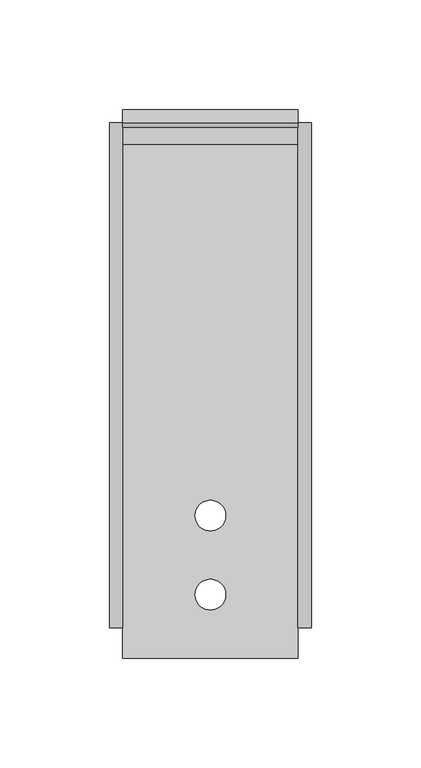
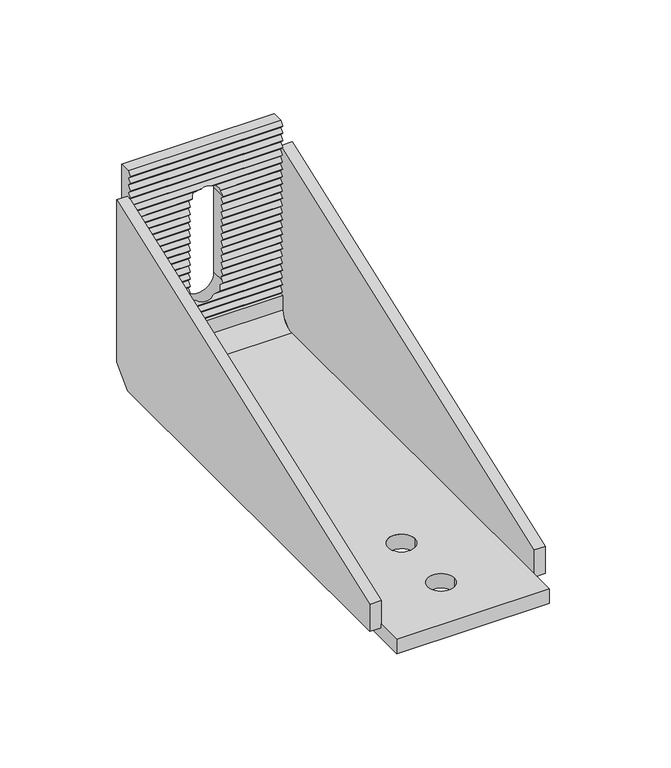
"""IFC4 building model written with IfcOpenShell, lengths in millimetres: fastener geometry, REC-PARA2501208RT : PARA2501208RT."""

from ifc_helpers import new_model, si_unit, frame, origin, place, context, project, spatial, polyline, circle_curve, ellipse_curve, source, transform, mapped, element, save
from ifc_brep_helpers import plane_surface, cylinder_surface, revolved_surface, advanced_brep


def fastener_4b0fadc4(model_context):
    return source(origin(), model_context, "Body", "AdvancedBrep", [
        advanced_brep(
        [(-40.0, -6.0, 120.0), (-40.0, 0.0, 120.0), (-40.0, 0.0, 16.0), (-40.0, -16.0, 0.0), (-40.0, -250.0, 0.0), (-40.0, -250.0, 8.0), (-40.0, -236.0, 8.0), (-40.0, -236.0, 6.0), (-40.0, -16.0, 6.0), (-40.0, -13.6457513, 8.3542487), (-40.0, -8.3542487, 13.6457513), (-40.0, -6.0, 16.0), (-40.0, -6.0, 24.0), (-40.0, -6.0, 28.0), (-40.0, -6.0, 32.0), (-40.0, -6.0, 36.0), (-40.0, -6.0, 40.0), (-40.0, -6.0, 44.0), (-40.0, -6.0, 48.0), (-40.0, -6.0, 52.0), (-40.0, -6.0, 56.0), (-40.0, -6.0, 60.0), (-40.0, -6.0, 64.0), (-40.0, -6.0, 68.0), (-40.0, -6.0, 72.0), (-40.0, -6.0, 76.0), (-40.0, -6.0, 80.0), (-40.0, -6.0, 84.0), (-40.0, -6.0, 88.0), (-40.0, -6.0, 92.0), (-40.0, -6.0, 96.0), (-40.0, -6.0, 100.0), (-40.0, -6.0, 104.0), (-40.0, -6.0, 106.0), (-40.0, -7.4603175, 105.4603175), (-40.0, -8.0, 106.0), (-40.0, -6.0, 108.0), (-40.0, -8.0, 110.0), (-40.0, -6.0, 112.0), (-40.0, -8.0, 114.0), (-40.0, -6.0, 116.0), (-40.0, -8.0, 118.0), (40.0, -6.0, 120.0), (40.0, -8.0, 118.0), (40.0, -6.0, 116.0), (40.0, -8.0, 114.0), (40.0, -6.0, 112.0), (40.0, -8.0, 110.0), (40.0, -6.0, 108.0), (40.0, -8.0, 106.0), (40.0, -7.4603175, 105.4603175), (40.0, -6.0, 106.0), (40.0, -6.0, 104.0), (40.0, -6.0, 100.0), (40.0, -6.0, 96.0), (40.0, -6.0, 92.0), (40.0, -6.0, 88.0), (40.0, -6.0, 84.0), (40.0, -6.0, 80.0), (40.0, -6.0, 76.0), (40.0, -6.0, 72.0), (40.0, -6.0, 68.0), (40.0, -6.0, 64.0), (40.0, -6.0, 60.0), (40.0, -6.0, 56.0), (40.0, -6.0, 52.0), (40.0, -6.0, 48.0), (40.0, -6.0, 44.0), (40.0, -6.0, 40.0), (40.0, -6.0, 36.0), (40.0, -6.0, 32.0), (40.0, -6.0, 28.0), (40.0, -6.0, 24.0), (40.0, -6.0, 16.0), (40.0, -8.3542487, 13.6457513), (40.0, -13.6457513, 8.3542487), (40.0, -16.0, 6.0), (40.0, -236.0, 6.0), (40.0, -236.0, 8.0), (40.0, -250.0, 8.0), (40.0, -250.0, 0.0), (40.0, -16.0, 0.0), (40.0, 0.0, 16.0), (40.0, 0.0, 120.0), (-8.5, 0.0, 90.0), (-8.5, 0.0, 43.0), (8.5, 0.0, 43.0), (8.5, 0.0, 90.0), (7.0, -221.0, 0.0), (-7.0, -221.0, 0.0), (7.0, -185.0, 0.0), (-7.0, -185.0, 0.0), (40.0, -16.0, 8.0), (-40.0, -16.0, 8.0), (-7.0, -221.0, 8.0), (7.0, -221.0, 8.0), (-7.0, -185.0, 8.0), (7.0, -185.0, 8.0), (-8.5, -8.0, 90.0), (-8.5, -6.0, 88.0), (-8.5, -8.0, 86.0), (-8.5, -6.0, 84.0), (-8.5, -8.0, 82.0), (-8.5, -6.0, 80.0), (-8.5, -8.0, 78.0), (-8.5, -6.0, 76.0), (-8.5, -8.0, 74.0), (-8.5, -6.0, 72.0), (-8.5, -8.0, 70.0), (-8.5, -6.0, 68.0), (-8.5, -8.0, 66.0), (-8.5, -6.0, 64.0), (-8.5, -8.0, 62.0), (-8.5, -6.0, 60.0), (-8.5, -8.0, 58.0), (-8.5, -6.0, 56.0), (-8.5, -8.0, 54.0), (-8.5, -6.0, 52.0), (-8.5, -8.0, 50.0), (-8.5, -6.0, 48.0), (-8.5, -8.0, 46.0), (-8.5, -6.0, 44.0), (-8.5, -7.0, 43.0), (-8.4409715, -8.0, 42.0), (-7.9529869, -6.0, 40.0), (-6.8738635, -8.0, 38.0), (-4.8218254, -6.0, 36.0), (4.8218254, -6.0, 36.0), (6.8738635, -8.0, 38.0), (7.9529869, -6.0, 40.0), (8.4409715, -8.0, 42.0), (8.5, -7.0, 43.0), (8.5, -8.0, 90.0), (8.5, -6.0, 44.0), (8.5, -8.0, 46.0), (8.5, -6.0, 48.0), (8.5, -8.0, 50.0), (8.5, -6.0, 52.0), (8.5, -8.0, 54.0), (8.5, -6.0, 56.0), (8.5, -8.0, 58.0), (8.5, -6.0, 60.0), (8.5, -8.0, 62.0), (8.5, -6.0, 64.0), (8.5, -8.0, 66.0), (8.5, -6.0, 68.0), (8.5, -8.0, 70.0), (8.5, -6.0, 72.0), (8.5, -8.0, 74.0), (8.5, -6.0, 76.0), (8.5, -8.0, 78.0), (8.5, -6.0, 80.0), (8.5, -8.0, 82.0), (8.5, -6.0, 84.0), (8.5, -8.0, 86.0), (8.5, -6.0, 88.0), (8.2613558, -6.0, 92.0), (7.5, -8.0, 94.0), (6.0207973, -6.0, 96.0), (2.8722813, -8.0, 98.0), (-2.8722813, -8.0, 98.0), (-6.0207973, -6.0, 96.0), (-7.5, -8.0, 94.0), (-8.2613558, -6.0, 92.0), (40.0, -8.0, 16.0), (-40.0, -8.0, 16.0), (40.0, -8.0, 24.0), (-40.0, -8.0, 24.0), (40.0, -6.0, 24.0), (-40.0, -6.0, 24.0), (46.0, -6.0, 106.0), (46.0, -236.0, 21.0), (46.0, -236.0, 6.0), (46.0, -16.0, 6.0), (46.0, -6.0, 16.0), (40.0, -236.0, 21.0), (40.0, -6.0, 104.0), (40.0, -8.0, 102.0), (40.0, -6.0, 100.0), (40.0, -8.0, 98.0), (40.0, -6.0, 96.0), (40.0, -8.0, 94.0), (40.0, -6.0, 92.0), (40.0, -8.0, 90.0), (40.0, -6.0, 88.0), (40.0, -8.0, 86.0), (40.0, -6.0, 84.0), (40.0, -8.0, 82.0), (40.0, -6.0, 80.0), (40.0, -8.0, 78.0), (40.0, -6.0, 76.0), (40.0, -8.0, 74.0), (40.0, -6.0, 72.0), (40.0, -8.0, 70.0), (40.0, -6.0, 68.0), (40.0, -8.0, 66.0), (40.0, -6.0, 64.0), (40.0, -8.0, 62.0), (40.0, -6.0, 60.0), (40.0, -8.0, 58.0), (40.0, -6.0, 56.0), (40.0, -8.0, 54.0), (40.0, -6.0, 52.0), (40.0, -8.0, 50.0), (40.0, -6.0, 48.0), (40.0, -8.0, 46.0), (40.0, -6.0, 44.0), (40.0, -8.0, 42.0), (40.0, -6.0, 40.0), (40.0, -8.0, 38.0), (40.0, -6.0, 36.0), (40.0, -8.0, 34.0), (40.0, -6.0, 32.0), (40.0, -8.0, 30.0), (40.0, -6.0, 28.0), (40.0, -8.0, 26.0), (-40.0, -236.0, 21.0), (-40.0, -8.0, 26.0), (-40.0, -6.0, 28.0), (-40.0, -8.0, 30.0), (-40.0, -6.0, 32.0), (-40.0, -8.0, 34.0), (-40.0, -6.0, 36.0), (-40.0, -8.0, 38.0), (-40.0, -6.0, 40.0), (-40.0, -8.0, 42.0), (-40.0, -6.0, 44.0), (-40.0, -8.0, 46.0), (-40.0, -6.0, 48.0), (-40.0, -8.0, 50.0), (-40.0, -6.0, 52.0), (-40.0, -8.0, 54.0), (-40.0, -6.0, 56.0), (-40.0, -8.0, 58.0), (-40.0, -6.0, 60.0), (-40.0, -8.0, 62.0), (-40.0, -6.0, 64.0), (-40.0, -8.0, 66.0), (-40.0, -6.0, 68.0), (-40.0, -8.0, 70.0), (-40.0, -6.0, 72.0), (-40.0, -8.0, 74.0), (-40.0, -6.0, 76.0), (-40.0, -8.0, 78.0), (-40.0, -6.0, 80.0), (-40.0, -8.0, 82.0), (-40.0, -6.0, 84.0), (-40.0, -8.0, 86.0), (-40.0, -6.0, 88.0), (-40.0, -8.0, 90.0), (-40.0, -6.0, 92.0), (-40.0, -8.0, 94.0), (-40.0, -6.0, 96.0), (-40.0, -8.0, 98.0), (-40.0, -6.0, 100.0), (-40.0, -8.0, 102.0), (-40.0, -6.0, 104.0), (-46.0, -6.0, 106.0), (-46.0, -6.0, 16.0), (-46.0, -16.0, 6.0), (-46.0, -236.0, 6.0), (-46.0, -236.0, 21.0)],
        [
            (0, 1),
            (1, 2),
            (2, 3, circle_curve(frame((-40.0, -16.0, 16.0), z_axis=(-1.0, 0.0, 0.0), x_axis=(0.0, 1.0, 0.0)), 16.0)),
            (3, 4),
            (4, 5),
            (5, 6),
            (6, 7),
            (7, 8),
            (8, 9),
            (9, 10, circle_curve(frame((-40.0, -16.0, 16.0), z_axis=(1.0, 0.0, 0.0), x_axis=(0.0, 1.0, 0.0)), 8.0)),
            (10, 11),
            (11, 12),
            (12, 13),
            (13, 14),
            (14, 15),
            (15, 16),
            (16, 17),
            (17, 18),
            (18, 19),
            (19, 20),
            (20, 21),
            (21, 22),
            (22, 23),
            (23, 24),
            (24, 25),
            (25, 26),
            (26, 27),
            (27, 28),
            (28, 29),
            (29, 30),
            (30, 31),
            (31, 32),
            (32, 33),
            (33, 34),
            (34, 35),
            (35, 36),
            (36, 37),
            (37, 38),
            (38, 39),
            (39, 40),
            (40, 41),
            (41, 0),
            (42, 43),
            (43, 44),
            (44, 45),
            (45, 46),
            (46, 47),
            (47, 48),
            (48, 49),
            (49, 50),
            (50, 51),
            (51, 52),
            (52, 53),
            (53, 54),
            (54, 55),
            (55, 56),
            (56, 57),
            (57, 58),
            (58, 59),
            (59, 60),
            (60, 61),
            (61, 62),
            (62, 63),
            (63, 64),
            (64, 65),
            (65, 66),
            (66, 67),
            (67, 68),
            (68, 69),
            (69, 70),
            (70, 71),
            (71, 72),
            (72, 73),
            (73, 74),
            (74, 75, circle_curve(frame((40.0, -16.0, 16.0), z_axis=(-1.0, 0.0, 0.0), x_axis=(0.0, 1.0, 0.0)), 8.0)),
            (75, 76),
            (76, 77),
            (77, 78),
            (78, 79),
            (79, 80),
            (80, 81),
            (81, 82, circle_curve(frame((40.0, -16.0, 16.0), z_axis=(1.0, 0.0, 0.0), x_axis=(0.0, 1.0, 0.0)), 16.0)),
            (82, 83),
            (83, 42),
            (0, 42),
            (83, 1),
            (82, 2),
            (84, 85),
            (85, 86, circle_curve(frame((0.0, 0.0, 43.0), z_axis=(0.0, -1.0, 0.0), x_axis=(-1.0, 0.0, 0.0)), 8.5)),
            (86, 87),
            (87, 84, circle_curve(frame((0.0, 0.0, 90.0), z_axis=(0.0, -1.0, 0.0), x_axis=(-1.0, 0.0, 0.0)), 8.5)),
            (3, 81),
            (80, 4),
            (88, 89, circle_curve(frame((0.0, -221.0, 0.0), z_axis=(0.0, 0.0, 1.0), x_axis=(-1.0, 0.0, 0.0)), 7.0)),
            (89, 88, circle_curve(frame((0.0, -221.0, 0.0), z_axis=(0.0, 0.0, 1.0), x_axis=(-1.0, 0.0, 0.0)), 7.0)),
            (90, 91, circle_curve(frame((0.0, -185.0, 0.0), z_axis=(0.0, 0.0, 1.0), x_axis=(-1.0, 0.0, 0.0)), 7.0)),
            (91, 90, circle_curve(frame((0.0, -185.0, 0.0), z_axis=(0.0, 0.0, 1.0), x_axis=(-1.0, 0.0, 0.0)), 7.0)),
            (79, 5),
            (78, 92),
            (92, 93),
            (93, 6),
            (94, 95, circle_curve(frame((0.0, -221.0, 8.0), z_axis=(0.0, 0.0, -1.0), x_axis=(-1.0, 0.0, 0.0)), 7.0)),
            (95, 94, circle_curve(frame((0.0, -221.0, 8.0), z_axis=(0.0, 0.0, -1.0), x_axis=(-1.0, 0.0, 0.0)), 7.0)),
            (96, 97, circle_curve(frame((0.0, -185.0, 8.0), z_axis=(0.0, 0.0, -1.0), x_axis=(-1.0, 0.0, 0.0)), 7.0)),
            (97, 96, circle_curve(frame((0.0, -185.0, 8.0), z_axis=(0.0, 0.0, -1.0), x_axis=(-1.0, 0.0, 0.0)), 7.0)),
            (84, 98),
            (98, 99),
            (99, 100),
            (100, 101),
            (101, 102),
            (102, 103),
            (103, 104),
            (104, 105),
            (105, 106),
            (106, 107),
            (107, 108),
            (108, 109),
            (109, 110),
            (110, 111),
            (111, 112),
            (112, 113),
            (113, 114),
            (114, 115),
            (115, 116),
            (116, 117),
            (117, 118),
            (118, 119),
            (119, 120),
            (120, 121),
            (121, 122),
            (122, 85),
            (122, 123, ellipse_curve(frame((0.0, -7.0, 43.0), z_axis=(0.0, -0.7071067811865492, 0.7071067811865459), x_axis=(0.0, 0.7071067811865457, 0.7071067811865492)), 12.0208153, 8.5)),
            (123, 124, ellipse_curve(frame((0.0, -9.0, 43.0), z_axis=(0.0, -0.7071067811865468, -0.7071067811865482), x_axis=(0.0, 0.7071067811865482, -0.7071067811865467)), 12.0208153, 8.5)),
            (124, 125, ellipse_curve(frame((0.0, -3.0, 43.0), z_axis=(0.0, -0.7071067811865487, 0.7071067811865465), x_axis=(0.0, 0.7071067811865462, 0.7071067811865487)), 12.0208153, 8.5)),
            (125, 126, ellipse_curve(frame((0.0, -13.0, 43.0), z_axis=(0.0, -0.7071067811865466, -0.7071067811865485), x_axis=(0.0, 0.7071067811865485, -0.7071067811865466)), 12.0208153, 8.5)),
            (126, 127, ellipse_curve(frame((0.0, 1.0, 43.0), z_axis=(0.0, -0.7071067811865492, 0.7071067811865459), x_axis=(0.0, 0.7071067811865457, 0.7071067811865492)), 12.0208153, 8.5)),
            (127, 128, ellipse_curve(frame((0.0, -13.0, 43.0), z_axis=(0.0, -0.7071067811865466, -0.7071067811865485), x_axis=(0.0, 0.7071067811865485, -0.7071067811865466)), 12.0208153, 8.5)),
            (128, 129, ellipse_curve(frame((0.0, -3.0, 43.0), z_axis=(0.0, -0.7071067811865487, 0.7071067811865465), x_axis=(0.0, 0.7071067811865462, 0.7071067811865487)), 12.0208153, 8.5)),
            (129, 130, ellipse_curve(frame((0.0, -9.0, 43.0), z_axis=(0.0, -0.7071067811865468, -0.7071067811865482), x_axis=(0.0, 0.7071067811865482, -0.7071067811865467)), 12.0208153, 8.5)),
            (130, 131, ellipse_curve(frame((0.0, -7.0, 43.0), z_axis=(0.0, -0.7071067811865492, 0.7071067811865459), x_axis=(0.0, 0.7071067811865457, 0.7071067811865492)), 12.0208153, 8.5)),
            (131, 86),
            (132, 87),
            (131, 133),
            (133, 134),
            (134, 135),
            (135, 136),
            (136, 137),
            (137, 138),
            (138, 139),
            (139, 140),
            (140, 141),
            (141, 142),
            (142, 143),
            (143, 144),
            (144, 145),
            (145, 146),
            (146, 147),
            (147, 148),
            (148, 149),
            (149, 150),
            (150, 151),
            (151, 152),
            (152, 153),
            (153, 154),
            (154, 155),
            (155, 132),
            (132, 156, ellipse_curve(frame((0.0, -8.0, 90.0), z_axis=(0.0, -0.7071067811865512, 0.7071067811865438), x_axis=(0.0, 0.7071067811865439, 0.7071067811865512)), 12.0208153, 8.5)),
            (156, 157, ellipse_curve(frame((0.0, -4.0, 90.0), z_axis=(0.0, -0.7071067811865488, -0.7071067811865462), x_axis=(0.0, 0.7071067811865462, -0.7071067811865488)), 12.0208153, 8.5)),
            (157, 158, ellipse_curve(frame((0.0, -12.0, 90.0), z_axis=(0.0, -0.7071067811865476, 0.7071067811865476), x_axis=(0.0, 0.7071067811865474, 0.7071067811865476)), 12.0208153, 8.5)),
            (158, 159, ellipse_curve(frame((0.0, 0.0, 90.0), z_axis=(0.0, -0.7071067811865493, -0.7071067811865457), x_axis=(0.0, 0.7071067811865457, -0.7071067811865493)), 12.0208153, 8.5)),
            (159, 160, ellipse_curve(frame((0.0, -16.0, 90.0), z_axis=(0.0, -0.70710678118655, 0.7071067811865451), x_axis=(0.0, 0.7071067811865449, 0.70710678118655)), 12.0208153, 8.5)),
            (160, 161, ellipse_curve(frame((0.0, 0.0, 90.0), z_axis=(0.0, -0.7071067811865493, -0.7071067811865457), x_axis=(0.0, 0.7071067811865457, -0.7071067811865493)), 12.0208153, 8.5)),
            (161, 162, ellipse_curve(frame((0.0, -12.0, 90.0), z_axis=(0.0, -0.7071067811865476, 0.7071067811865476), x_axis=(0.0, 0.7071067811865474, 0.7071067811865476)), 12.0208153, 8.5)),
            (162, 163, ellipse_curve(frame((0.0, -4.0, 90.0), z_axis=(0.0, -0.7071067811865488, -0.7071067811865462), x_axis=(0.0, 0.7071067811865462, -0.7071067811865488)), 12.0208153, 8.5)),
            (163, 98, ellipse_curve(frame((0.0, -8.0, 90.0), z_axis=(0.0, -0.7071067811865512, 0.7071067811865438), x_axis=(0.0, 0.7071067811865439, 0.7071067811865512)), 12.0208153, 8.5)),
            (88, 95),
            (94, 89),
            (90, 97),
            (96, 91),
            (92, 75, circle_curve(frame((40.0, -16.0, 16.0), z_axis=(1.0, 0.0, 0.0), x_axis=(0.0, 1.0, 0.0)), 8.0)),
            (74, 164, circle_curve(frame((40.0, -16.0, 16.0), z_axis=(1.0, 0.0, 0.0), x_axis=(0.0, 1.0, 0.0)), 8.0)),
            (164, 165),
            (165, 10, circle_curve(frame((-40.0, -16.0, 16.0), z_axis=(-1.0, 0.0, 0.0), x_axis=(0.0, 1.0, 0.0)), 8.0)),
            (9, 93, circle_curve(frame((-40.0, -16.0, 16.0), z_axis=(-1.0, 0.0, 0.0), x_axis=(0.0, 1.0, 0.0)), 8.0)),
            (164, 166),
            (166, 167),
            (167, 165),
            (166, 168),
            (168, 169),
            (169, 167),
            (170, 171),
            (171, 172),
            (172, 173),
            (173, 174),
            (174, 170),
            (175, 50),
            (50, 176),
            (176, 177),
            (177, 178),
            (178, 179),
            (179, 180),
            (180, 181),
            (181, 182),
            (182, 183),
            (183, 184),
            (184, 185),
            (185, 186),
            (186, 187),
            (187, 188),
            (188, 189),
            (189, 190),
            (190, 191),
            (191, 192),
            (192, 193),
            (193, 194),
            (194, 195),
            (195, 196),
            (196, 197),
            (197, 198),
            (198, 199),
            (199, 200),
            (200, 201),
            (201, 202),
            (202, 203),
            (203, 204),
            (204, 205),
            (205, 206),
            (206, 207),
            (207, 208),
            (208, 209),
            (209, 210),
            (210, 211),
            (211, 212),
            (212, 213),
            (213, 214),
            (214, 215),
            (215, 168),
            (74, 75),
            (78, 175),
            (174, 73),
            (51, 170),
            (172, 77),
            (76, 173),
            (175, 171),
            (216, 6),
            (9, 10),
            (169, 217),
            (217, 218),
            (218, 219),
            (219, 220),
            (220, 221),
            (221, 222),
            (222, 223),
            (223, 224),
            (224, 225),
            (225, 226),
            (226, 227),
            (227, 228),
            (228, 229),
            (229, 230),
            (230, 231),
            (231, 232),
            (232, 233),
            (233, 234),
            (234, 235),
            (235, 236),
            (236, 237),
            (237, 238),
            (238, 239),
            (239, 240),
            (240, 241),
            (241, 242),
            (242, 243),
            (243, 244),
            (244, 245),
            (245, 246),
            (246, 247),
            (247, 248),
            (248, 249),
            (249, 250),
            (250, 251),
            (251, 252),
            (252, 253),
            (253, 254),
            (254, 255),
            (255, 256),
            (256, 34),
            (34, 216),
            (257, 258),
            (258, 259),
            (259, 260),
            (260, 261),
            (261, 257),
            (257, 33),
            (11, 258),
            (259, 8),
            (7, 260),
            (261, 216),
            (215, 217),
            (214, 218),
            (213, 219),
            (212, 220),
            (211, 221),
            (210, 127),
            (126, 222),
            (209, 128),
            (125, 223),
            (124, 224),
            (208, 129),
            (123, 225),
            (207, 130),
            (121, 226),
            (206, 133),
            (120, 227),
            (205, 134),
            (119, 228),
            (204, 135),
            (118, 229),
            (203, 136),
            (117, 230),
            (202, 137),
            (116, 231),
            (201, 138),
            (115, 232),
            (200, 139),
            (114, 233),
            (199, 140),
            (113, 234),
            (198, 141),
            (112, 235),
            (197, 142),
            (111, 236),
            (196, 143),
            (110, 237),
            (195, 144),
            (109, 238),
            (194, 145),
            (108, 239),
            (193, 146),
            (107, 240),
            (192, 147),
            (106, 241),
            (191, 148),
            (105, 242),
            (190, 149),
            (104, 243),
            (189, 150),
            (103, 244),
            (188, 151),
            (102, 245),
            (187, 152),
            (101, 246),
            (186, 153),
            (100, 247),
            (185, 154),
            (99, 248),
            (184, 155),
            (98, 249),
            (183, 132),
            (163, 250),
            (182, 156),
            (162, 251),
            (181, 157),
            (161, 252),
            (180, 158),
            (160, 253),
            (179, 159),
            (178, 254),
            (177, 255),
            (176, 256),
            (49, 35),
            (48, 36),
            (47, 37),
            (46, 38),
            (45, 39),
            (44, 40),
            (43, 41),
        ],
        [
            plane_surface(frame((-40.0, 0.0, 120.0), z_axis=(-1.0, 0.0, 0.0), x_axis=(0.0, 1.0, 0.0))),
            plane_surface(frame((40.0, 0.0, 120.0), z_axis=(1.0, 0.0, 0.0), x_axis=(0.0, -1.0, 0.0))),
            plane_surface(frame((-40.0, -6.0, 120.0), z_axis=(0.0, 0.0, 1.0), x_axis=(1.0, 0.0, 0.0))),
            plane_surface(frame((-40.0, 0.0, 120.0), z_axis=(0.0, 1.0, 0.0), x_axis=(1.0, 0.0, 0.0))),
            plane_surface(frame((-40.0, -16.0, 0.0), z_axis=(0.0, 0.0, -1.0), x_axis=(1.0, 0.0, 0.0))),
            plane_surface(frame((-40.0, -250.0, 0.0), z_axis=(0.0, -1.0, 0.0), x_axis=(1.0, 0.0, 0.0))),
            plane_surface(frame((-40.0, -250.0, 8.0), z_axis=(0.0, 0.0, 1.0), x_axis=(1.0, 0.0, 0.0))),
            plane_surface(frame((-8.5, 0.0, 43.0), z_axis=(1.0, 0.0, 0.0), x_axis=(0.0, -1.0, 0.0))),
            revolved_surface(polyline([(-8.5, 9.500000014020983, 43.0), (-8.5, -21.500000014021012, 43.0)]), (0.0, -8.0, 43.0), (0.0, 1.0, 0.0)),
            plane_surface(frame((8.5, 0.0, 90.0), z_axis=(-1.0, 0.0, 0.0), x_axis=(0.0, -1.0, 0.0))),
            revolved_surface(polyline([(-8.5, 8.500000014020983, 90.0), (-8.5, -24.50000001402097, 90.0)]), (0.0, -8.0, 90.0), (0.0, 1.0, 0.0)),
            revolved_surface(polyline([(-7.0, -221.0, 8.0), (-7.0, -221.0, 0.0)]), (0.0, -221.0, 0.0), (0.0, 0.0, 1.0)),
            revolved_surface(polyline([(-7.0, -185.0, 8.0), (-7.0, -185.0, 0.0)]), (0.0, -185.0, 0.0), (0.0, 0.0, 1.0)),
            cylinder_surface(frame((40.0, -16.0, 16.0), z_axis=(-1.0, 0.0, 0.0), x_axis=(0.0, 1.0, 0.0)), 16.0),
            revolved_surface(polyline([(40.0, -8.0, 16.0), (-40.0, -8.0, 16.0)]), (40.0, -16.0, 16.0), (1.0, 0.0, 0.0)),
            plane_surface(frame((-40.0, -8.0, 16.0), z_axis=(0.0, -1.0, 0.0), x_axis=(1.0, 0.0, 0.0))),
            plane_surface(frame((-40.0, -8.0, 24.0), z_axis=(0.0, 0.0, 1.0), x_axis=(1.0, 0.0, 0.0))),
            plane_surface(frame((46.0, -241.2478235, 19.060587), z_axis=(1.0, 0.0, 0.0), x_axis=(0.0, -0.937994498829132, -0.3466501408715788))),
            plane_surface(frame((40.0, -241.2478235, 19.060587), z_axis=(-1.0, 0.0, 0.0), x_axis=(0.0, 0.937994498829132, 0.3466501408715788))),
            plane_surface(frame((46.0, -6.0, 16.0), z_axis=(0.0, 1.0, 0.0), x_axis=(-1.0, 0.0, 0.0))),
            plane_surface(frame((46.0, -236.0, 6.0), z_axis=(0.0, 0.0, -1.0), x_axis=(-1.0, 0.0, 0.0))),
            plane_surface(frame((46.0, -6.0, 106.0), z_axis=(0.0, -0.3466501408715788, 0.937994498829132), x_axis=(-1.0, 0.0, 0.0))),
            plane_surface(frame((46.0, -236.0, 21.0), z_axis=(0.0, -1.0, 0.0), x_axis=(-1.0, 0.0, 0.0))),
            plane_surface(frame((46.0, -16.0, 6.0), z_axis=(0.0, 0.7071067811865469, -0.7071067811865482), x_axis=(-1.0, 0.0, 0.0))),
            plane_surface(frame((-40.0, -241.2478235, 19.060587), z_axis=(1.0, 0.0, 0.0), x_axis=(0.0, -0.9379944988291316, -0.3466501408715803))),
            plane_surface(frame((-46.0, -241.2478235, 19.060587), z_axis=(-1.0, 0.0, 0.0), x_axis=(0.0, 0.9379944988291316, 0.3466501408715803))),
            plane_surface(frame((-40.0, -6.0, 16.0), z_axis=(0.0, 1.0, 0.0), x_axis=(-1.0, 0.0, 0.0))),
            plane_surface(frame((-40.0, -236.0, 6.0), z_axis=(0.0, 0.0, -1.0), x_axis=(-1.0, 0.0, 0.0))),
            plane_surface(frame((-40.0, -6.0, 106.0), z_axis=(0.0, -0.3466501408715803, 0.9379944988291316), x_axis=(-1.0, 0.0, 0.0))),
            plane_surface(frame((-40.0, -236.0, 21.0), z_axis=(0.0, -1.0, 0.0), x_axis=(-1.0, 0.0, 0.0))),
            plane_surface(frame((-40.0, -16.0, 6.0), z_axis=(0.0, 0.7071067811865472, -0.7071067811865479), x_axis=(-1.0, 0.0, 0.0))),
            plane_surface(frame((-40.0, -6.0, 24.0), z_axis=(0.0, -0.7071067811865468, -0.7071067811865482), x_axis=(1.0, 0.0, 0.0))),
            plane_surface(frame((-40.0, -8.0, 26.0), z_axis=(0.0, -0.7071067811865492, 0.7071067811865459), x_axis=(1.0, 0.0, 0.0))),
            plane_surface(frame((-40.0, -6.0, 28.0), z_axis=(0.0, -0.7071067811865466, -0.7071067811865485), x_axis=(1.0, 0.0, 0.0))),
            plane_surface(frame((-40.0, -8.0, 30.0), z_axis=(0.0, -0.7071067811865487, 0.7071067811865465), x_axis=(1.0, 0.0, 0.0))),
            plane_surface(frame((-40.0, -6.0, 32.0), z_axis=(0.0, -0.7071067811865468, -0.7071067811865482), x_axis=(1.0, 0.0, 0.0))),
            plane_surface(frame((-40.0, -8.0, 34.0), z_axis=(0.0, -0.7071067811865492, 0.7071067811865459), x_axis=(1.0, 0.0, 0.0))),
            plane_surface(frame((-40.0, -6.0, 36.0), z_axis=(0.0, -0.7071067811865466, -0.7071067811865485), x_axis=(1.0, 0.0, 0.0))),
            plane_surface(frame((-40.0, -8.0, 38.0), z_axis=(0.0, -0.7071067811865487, 0.7071067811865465), x_axis=(1.0, 0.0, 0.0))),
            plane_surface(frame((-40.0, -6.0, 40.0), z_axis=(0.0, -0.7071067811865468, -0.7071067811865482), x_axis=(1.0, 0.0, 0.0))),
            plane_surface(frame((-40.0, -8.0, 42.0), z_axis=(0.0, -0.7071067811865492, 0.7071067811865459), x_axis=(1.0, 0.0, 0.0))),
            plane_surface(frame((-40.0, -6.0, 44.0), z_axis=(0.0, -0.7071067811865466, -0.7071067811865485), x_axis=(1.0, 0.0, 0.0))),
            plane_surface(frame((-40.0, -8.0, 46.0), z_axis=(0.0, -0.7071067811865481, 0.707106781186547), x_axis=(1.0, 0.0, 0.0))),
            plane_surface(frame((-40.0, -6.0, 48.0), z_axis=(0.0, -0.707106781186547, -0.7071067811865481), x_axis=(1.0, 0.0, 0.0))),
            plane_surface(frame((-40.0, -8.0, 50.0), z_axis=(0.0, -0.7071067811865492, 0.7071067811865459), x_axis=(1.0, 0.0, 0.0))),
            plane_surface(frame((-40.0, -6.0, 52.0), z_axis=(0.0, -0.7071067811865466, -0.7071067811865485), x_axis=(1.0, 0.0, 0.0))),
            plane_surface(frame((-40.0, -8.0, 54.0), z_axis=(0.0, -0.7071067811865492, 0.7071067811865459), x_axis=(1.0, 0.0, 0.0))),
            plane_surface(frame((-40.0, -6.0, 56.0), z_axis=(0.0, -0.7071067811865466, -0.7071067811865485), x_axis=(1.0, 0.0, 0.0))),
            plane_surface(frame((-40.0, -8.0, 58.0), z_axis=(0.0, -0.7071067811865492, 0.7071067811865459), x_axis=(1.0, 0.0, 0.0))),
            plane_surface(frame((-40.0, -6.0, 60.0), z_axis=(0.0, -0.7071067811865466, -0.7071067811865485), x_axis=(1.0, 0.0, 0.0))),
            plane_surface(frame((-40.0, -8.0, 62.0), z_axis=(0.0, -0.7071067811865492, 0.7071067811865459), x_axis=(1.0, 0.0, 0.0))),
            plane_surface(frame((-40.0, -6.0, 64.0), z_axis=(0.0, -0.7071067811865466, -0.7071067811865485), x_axis=(1.0, 0.0, 0.0))),
            plane_surface(frame((-40.0, -8.0, 66.0), z_axis=(0.0, -0.7071067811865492, 0.7071067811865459), x_axis=(1.0, 0.0, 0.0))),
            plane_surface(frame((-40.0, -6.0, 68.0), z_axis=(0.0, -0.7071067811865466, -0.7071067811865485), x_axis=(1.0, 0.0, 0.0))),
            plane_surface(frame((-40.0, -8.0, 70.0), z_axis=(0.0, -0.7071067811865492, 0.7071067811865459), x_axis=(1.0, 0.0, 0.0))),
            plane_surface(frame((-40.0, -6.0, 72.0), z_axis=(0.0, -0.7071067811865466, -0.7071067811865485), x_axis=(1.0, 0.0, 0.0))),
            plane_surface(frame((-40.0, -8.0, 74.0), z_axis=(0.0, -0.7071067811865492, 0.7071067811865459), x_axis=(1.0, 0.0, 0.0))),
            plane_surface(frame((-40.0, -6.0, 76.0), z_axis=(0.0, -0.7071067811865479, -0.7071067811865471), x_axis=(1.0, 0.0, 0.0))),
            plane_surface(frame((-40.0, -8.0, 78.0), z_axis=(0.0, -0.7071067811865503, 0.7071067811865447), x_axis=(1.0, 0.0, 0.0))),
            plane_surface(frame((-40.0, -6.0, 80.0), z_axis=(0.0, -0.7071067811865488, -0.7071067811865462), x_axis=(1.0, 0.0, 0.0))),
            plane_surface(frame((-40.0, -8.0, 82.0), z_axis=(0.0, -0.7071067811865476, 0.7071067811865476), x_axis=(1.0, 0.0, 0.0))),
            plane_surface(frame((-40.0, -6.0, 84.0), z_axis=(0.0, -0.7071067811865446, -0.7071067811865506), x_axis=(1.0, 0.0, 0.0))),
            plane_surface(frame((-40.0, -8.0, 86.0), z_axis=(0.0, -0.7071067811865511, 0.707106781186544), x_axis=(1.0, 0.0, 0.0))),
            plane_surface(frame((-40.0, -6.0, 88.0), z_axis=(0.0, -0.7071067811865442, -0.7071067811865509), x_axis=(1.0, 0.0, 0.0))),
            plane_surface(frame((-40.0, -8.0, 90.0), z_axis=(0.0, -0.7071067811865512, 0.7071067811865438), x_axis=(1.0, 0.0, 0.0))),
            plane_surface(frame((-40.0, -6.0, 92.0), z_axis=(0.0, -0.7071067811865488, -0.7071067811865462), x_axis=(1.0, 0.0, 0.0))),
            plane_surface(frame((-40.0, -8.0, 94.0), z_axis=(0.0, -0.7071067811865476, 0.7071067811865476), x_axis=(1.0, 0.0, 0.0))),
            plane_surface(frame((-40.0, -6.0, 96.0), z_axis=(0.0, -0.7071067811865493, -0.7071067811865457), x_axis=(1.0, 0.0, 0.0))),
            plane_surface(frame((-40.0, -8.0, 98.0), z_axis=(0.0, -0.70710678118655, 0.7071067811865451), x_axis=(1.0, 0.0, 0.0))),
            plane_surface(frame((-40.0, -6.0, 100.0), z_axis=(0.0, -0.7071067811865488, -0.7071067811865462), x_axis=(1.0, 0.0, 0.0))),
            plane_surface(frame((-40.0, -8.0, 102.0), z_axis=(0.0, -0.7071067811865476, 0.7071067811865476), x_axis=(1.0, 0.0, 0.0))),
            plane_surface(frame((-40.0, -6.0, 104.0), z_axis=(0.0, -0.7071067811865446, -0.7071067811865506), x_axis=(1.0, 0.0, 0.0))),
            plane_surface(frame((-40.0, -8.0, 106.0), z_axis=(0.0, -0.7071067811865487, 0.7071067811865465), x_axis=(1.0, 0.0, 0.0))),
            plane_surface(frame((-40.0, -6.0, 108.0), z_axis=(0.0, -0.7071067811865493, -0.7071067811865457), x_axis=(1.0, 0.0, 0.0))),
            plane_surface(frame((-40.0, -8.0, 110.0), z_axis=(0.0, -0.70710678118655, 0.7071067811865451), x_axis=(1.0, 0.0, 0.0))),
            plane_surface(frame((-40.0, -6.0, 112.0), z_axis=(0.0, -0.7071067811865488, -0.7071067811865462), x_axis=(1.0, 0.0, 0.0))),
            plane_surface(frame((-40.0, -8.0, 114.0), z_axis=(0.0, -0.7071067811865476, 0.7071067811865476), x_axis=(1.0, 0.0, 0.0))),
            plane_surface(frame((-40.0, -6.0, 116.0), z_axis=(0.0, -0.7071067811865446, -0.7071067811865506), x_axis=(1.0, 0.0, 0.0))),
            plane_surface(frame((-40.0, -8.0, 118.0), z_axis=(0.0, -0.7071067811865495, 0.7071067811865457), x_axis=(1.0, 0.0, 0.0))),
        ],
        [
            (0, [[1, 2, 3, 4, 5, 6, 7, 8, 9, 10, 11, 12, 13, 14, 15, 16, 17, 18, 19, 20, 21, 22, 23, 24, 25, 26, 27, 28, 29, 30, 31, 32, 33, 34, 35, 36, 37, 38, 39, 40, 41, 42]]),
            (1, [[43, 44, 45, 46, 47, 48, 49, 50, 51, 52, 53, 54, 55, 56, 57, 58, 59, 60, 61, 62, 63, 64, 65, 66, 67, 68, 69, 70, 71, 72, 73, 74, 75, 76, 77, 78, 79, 80, 81, 82, 83, 84]]),
            (2, [[-1, 85, -84, 86]]),
            (3, [[-2, -86, -83, 87], [88, 89, 90, 91]]),
            (4, [[-4, 92, -81, 93], [94, 95], [96, 97]]),
            (5, [[-5, -93, -80, 98]]),
            (6, [[-98, -79, 99, 100, 101, -6], [102, 103], [104, 105]]),
            (7, [[106, 107, 108, 109, 110, 111, 112, 113, 114, 115, 116, 117, 118, 119, 120, 121, 122, 123, 124, 125, 126, 127, 128, 129, 130, 131, -88]]),
            (8, [[-131, 132, 133, 134, 135, 136, 137, 138, 139, 140, 141, -89]]),
            (9, [[142, -90, -141, 143, 144, 145, 146, 147, 148, 149, 150, 151, 152, 153, 154, 155, 156, 157, 158, 159, 160, 161, 162, 163, 164, 165, 166]]),
            (10, [[-106, -91, -142, 167, 168, 169, 170, 171, 172, 173, 174, 175]]),
            (11, [[176, -102, 177, -94]]),
            (11, [[-176, -95, -177, -103]]),
            (12, [[178, -104, 179, -96]]),
            (12, [[-178, -97, -179, -105]]),
            (13, [[-3, -87, -82, -92]]),
            (14, [[-100, 180, -75, 181, 182, 183, -10, 184]]),
            (15, [[-182, 185, 186, 187]]),
            (16, [[-186, 188, 189, 190]]),
            (17, [[191, 192, 193, 194, 195]]),
            (18, [[196, 197, 198, 199, 200, 201, 202, 203, 204, 205, 206, 207, 208, 209, 210, 211, 212, 213, 214, 215, 216, 217, 218, 219, 220, 221, 222, 223, 224, 225, 226, 227, 228, 229, 230, 231, 232, 233, 234, 235, 236, 237, -188, -185, -181, 238, -180, -99, 239]]),
            (19, [[-195, 240, -73, -72, -71, -70, -69, -68, -67, -66, -65, -64, -63, -62, -61, -60, -59, -58, -57, -56, -55, -54, -53, -52, 241]]),
            (20, [[-193, 242, -77, 243]]),
            (21, [[-191, -241, -51, -196, 244]]),
            (22, [[-192, -244, -239, -78, -242]]),
            (23, [[-194, -243, -76, -238, -74, -240]]),
            (24, [[245, -101, -184, 246, -183, -187, -190, 247, 248, 249, 250, 251, 252, 253, 254, 255, 256, 257, 258, 259, 260, 261, 262, 263, 264, 265, 266, 267, 268, 269, 270, 271, 272, 273, 274, 275, 276, 277, 278, 279, 280, 281, 282, 283, 284, 285, 286, 287, 288]]),
            (25, [[289, 290, 291, 292, 293]]),
            (26, [[-289, 294, -33, -32, -31, -30, -29, -28, -27, -26, -25, -24, -23, -22, -21, -20, -19, -18, -17, -16, -15, -14, -13, -12, 295]]),
            (27, [[-291, 296, -8, 297]]),
            (28, [[-293, 298, -288, -34, -294]]),
            (29, [[-292, -297, -7, -245, -298]]),
            (30, [[-290, -295, -11, -246, -9, -296]]),
            (31, [[-189, -237, 299, -247]]),
            (32, [[-299, -236, 300, -248]]),
            (33, [[-300, -235, 301, -249]]),
            (34, [[-301, -234, 302, -250]]),
            (35, [[-302, -233, 303, -251]]),
            (36, [[-303, -232, 304, -136, 305, -252]]),
            (37, [[-304, -231, 306, -137]]),
            (37, [[-305, -135, 307, -253]]),
            (38, [[-307, -134, 308, -254]]),
            (38, [[-306, -230, 309, -138]]),
            (39, [[-308, -133, 310, -255]]),
            (39, [[-309, -229, 311, -139]]),
            (40, [[-310, -132, -130, 312, -256]]),
            (40, [[-311, -228, 313, -143, -140]]),
            (41, [[-312, -129, 314, -257]]),
            (41, [[-313, -227, 315, -144]]),
            (42, [[-314, -128, 316, -258]]),
            (42, [[-315, -226, 317, -145]]),
            (43, [[-316, -127, 318, -259]]),
            (43, [[-317, -225, 319, -146]]),
            (44, [[-318, -126, 320, -260]]),
            (44, [[-319, -224, 321, -147]]),
            (45, [[-320, -125, 322, -261]]),
            (45, [[-321, -223, 323, -148]]),
            (46, [[-322, -124, 324, -262]]),
            (46, [[-323, -222, 325, -149]]),
            (47, [[-324, -123, 326, -263]]),
            (47, [[-325, -221, 327, -150]]),
            (48, [[-326, -122, 328, -264]]),
            (48, [[-327, -220, 329, -151]]),
            (49, [[-328, -121, 330, -265]]),
            (49, [[-329, -219, 331, -152]]),
            (50, [[-330, -120, 332, -266]]),
            (50, [[-331, -218, 333, -153]]),
            (51, [[-332, -119, 334, -267]]),
            (51, [[-333, -217, 335, -154]]),
            (52, [[-334, -118, 336, -268]]),
            (52, [[-335, -216, 337, -155]]),
            (53, [[-336, -117, 338, -269]]),
            (53, [[-337, -215, 339, -156]]),
            (54, [[-338, -116, 340, -270]]),
            (54, [[-339, -214, 341, -157]]),
            (55, [[-340, -115, 342, -271]]),
            (55, [[-341, -213, 343, -158]]),
            (56, [[-342, -114, 344, -272]]),
            (56, [[-343, -212, 345, -159]]),
            (57, [[-344, -113, 346, -273]]),
            (57, [[-345, -211, 347, -160]]),
            (58, [[-346, -112, 348, -274]]),
            (58, [[-347, -210, 349, -161]]),
            (59, [[-348, -111, 350, -275]]),
            (59, [[-349, -209, 351, -162]]),
            (60, [[-350, -110, 352, -276]]),
            (60, [[-351, -208, 353, -163]]),
            (61, [[-352, -109, 354, -277]]),
            (61, [[-353, -207, 355, -164]]),
            (62, [[-354, -108, 356, -278]]),
            (62, [[-355, -206, 357, -165]]),
            (63, [[-356, -107, 358, -279]]),
            (63, [[-357, -205, 359, -166]]),
            (64, [[-358, -175, 360, -280]]),
            (64, [[-359, -204, 361, -167]]),
            (65, [[-360, -174, 362, -281]]),
            (65, [[-361, -203, 363, -168]]),
            (66, [[-362, -173, 364, -282]]),
            (66, [[-363, -202, 365, -169]]),
            (67, [[-364, -172, 366, -283]]),
            (67, [[-365, -201, 367, -170]]),
            (68, [[368, -284, -366, -171, -367, -200]]),
            (69, [[-368, -199, 369, -285]]),
            (70, [[-369, -198, 370, -286]]),
            (71, [[-370, -197, -50, 371, -35, -287]]),
            (72, [[-36, -371, -49, 372]]),
            (73, [[-37, -372, -48, 373]]),
            (74, [[-38, -373, -47, 374]]),
            (75, [[-39, -374, -46, 375]]),
            (76, [[-40, -375, -45, 376]]),
            (77, [[-41, -376, -44, 377]]),
            (78, [[-42, -377, -43, -85]]),
        ],
    ),
    ])


if __name__ == "__main__":
    model = new_model("IFC4")
    model_context = context("Model", 3, world=origin())
    ifc_project = project(units=[si_unit("LENGTHUNIT", "METRE", prefix="MILLI")], contexts=[model_context])
    site = spatial("IfcSite", under=ifc_project)
    building = spatial("IfcBuilding", under=site)
    placement = place(None, origin())
    fastener_shape = fastener_4b0fadc4(model_context)
    element("IfcFastener", 1, ObjectType="REC-PARA2501208RT : PARA2501208RT", at=placement, inside=building, context=model_context, shape_type="MappedRepresentation", body=[
        mapped(fastener_shape, transform((0.0, 0.0, 0.0), x_axis=(1.0, 0.0, 0.0), y_axis=(0.0, 1.0, 0.0), z_axis=(0.0, 0.0, 1.0))),
    ])
    save(model, "model.ifc")
